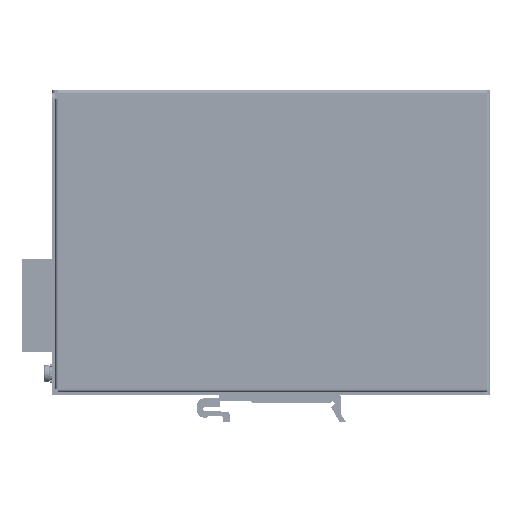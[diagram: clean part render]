
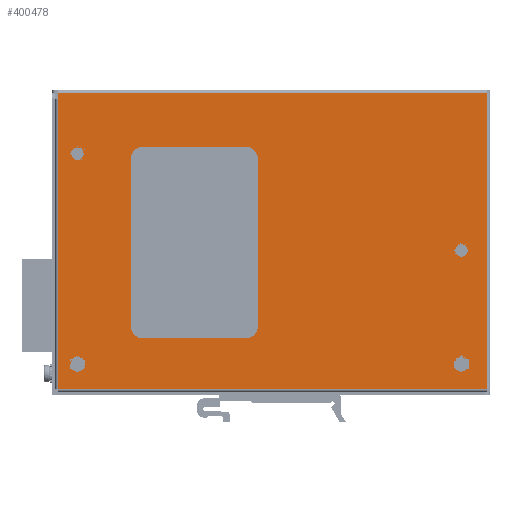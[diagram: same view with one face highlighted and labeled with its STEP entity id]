
A CAD part, front view. The second image highlights one B-rep face of the part: STEP entity #400478.
In plain terms, the highlighted planar face has unit normal (0, -1, 0).
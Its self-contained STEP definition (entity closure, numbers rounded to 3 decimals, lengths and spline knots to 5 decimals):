
#11233=CIRCLE('',#428897,0.004);
#11234=CIRCLE('',#428900,0.004);
#11235=CIRCLE('',#428903,0.004);
#11236=CIRCLE('',#428906,0.004);
#11287=CIRCLE('',#429021,0.002);
#11289=CIRCLE('',#429024,0.002);
#11291=CIRCLE('',#429027,0.002);
#11293=CIRCLE('',#429030,0.002);
#85942=ORIENTED_EDGE('',*,*,#167500,.F.);
#85943=ORIENTED_EDGE('',*,*,#167498,.F.);
#85944=ORIENTED_EDGE('',*,*,#167496,.F.);
#85945=ORIENTED_EDGE('',*,*,#167494,.F.);
#85946=ORIENTED_EDGE('',*,*,#167492,.F.);
#85947=ORIENTED_EDGE('',*,*,#167490,.F.);
#85948=ORIENTED_EDGE('',*,*,#167488,.F.);
#85949=ORIENTED_EDGE('',*,*,#167501,.F.);
#85950=ORIENTED_EDGE('',*,*,#167673,.F.);
#85951=ORIENTED_EDGE('',*,*,#167671,.F.);
#85952=ORIENTED_EDGE('',*,*,#167669,.F.);
#85953=ORIENTED_EDGE('',*,*,#167667,.F.);
#85954=ORIENTED_EDGE('',*,*,#168155,.T.);
#85955=ORIENTED_EDGE('',*,*,#168141,.T.);
#85956=ORIENTED_EDGE('',*,*,#168114,.T.);
#85957=ORIENTED_EDGE('',*,*,#168095,.T.);
#85958=ORIENTED_EDGE('',*,*,#168158,.T.);
#167488=EDGE_CURVE('',#213967,#213966,#11233,.T.);
#167490=EDGE_CURVE('',#213966,#213968,#258349,.T.);
#167492=EDGE_CURVE('',#213968,#213969,#11234,.T.);
#167494=EDGE_CURVE('',#213969,#213970,#258352,.T.);
#167496=EDGE_CURVE('',#213970,#213971,#11235,.T.);
#167498=EDGE_CURVE('',#213971,#213972,#258355,.T.);
#167500=EDGE_CURVE('',#213972,#213973,#11236,.T.);
#167501=EDGE_CURVE('',#213973,#213967,#258357,.T.);
#167667=EDGE_CURVE('',#214094,#214094,#11287,.T.);
#167669=EDGE_CURVE('',#214096,#214096,#11289,.T.);
#167671=EDGE_CURVE('',#214098,#214098,#11291,.T.);
#167673=EDGE_CURVE('',#214100,#214100,#11293,.T.);
#168095=EDGE_CURVE('',#214488,#214487,#258555,.T.);
#168114=EDGE_CURVE('',#214497,#214488,#258569,.T.);
#168141=EDGE_CURVE('',#214510,#214497,#258588,.T.);
#168155=EDGE_CURVE('',#214516,#214510,#258599,.T.);
#168158=EDGE_CURVE('',#214487,#214516,#258601,.T.);
#213966=VERTEX_POINT('',#626858);
#213967=VERTEX_POINT('',#626860);
#213968=VERTEX_POINT('',#626864);
#213969=VERTEX_POINT('',#626868);
#213970=VERTEX_POINT('',#626872);
#213971=VERTEX_POINT('',#626876);
#213972=VERTEX_POINT('',#626880);
#213973=VERTEX_POINT('',#626884);
#214094=VERTEX_POINT('',#627237);
#214096=VERTEX_POINT('',#627242);
#214098=VERTEX_POINT('',#627247);
#214100=VERTEX_POINT('',#627252);
#214487=VERTEX_POINT('',#628256);
#214488=VERTEX_POINT('',#628258);
#214497=VERTEX_POINT('',#628296);
#214510=VERTEX_POINT('',#628350);
#214516=VERTEX_POINT('',#628378);
#258349=LINE('',#626865,#306201);
#258352=LINE('',#626873,#306204);
#258355=LINE('',#626881,#306207);
#258357=LINE('',#626887,#306209);
#258555=LINE('',#628257,#306407);
#258569=LINE('',#628295,#306421);
#258588=LINE('',#628349,#306440);
#258599=LINE('',#628377,#306451);
#258601=LINE('',#628383,#306453);
#306201=VECTOR('',#504770,1.);
#306204=VECTOR('',#504779,1.);
#306207=VECTOR('',#504788,1.);
#306209=VECTOR('',#504796,1.);
#306407=VECTOR('',#506310,1.);
#306421=VECTOR('',#506354,1.);
#306440=VECTOR('',#506417,1.);
#306451=VECTOR('',#506450,1.);
#306453=VECTOR('',#506458,1.);
#339076=EDGE_LOOP('',(#85942,#85943,#85944,#85945,#85946,#85947,#85948,
#85949));
#339077=EDGE_LOOP('',(#85950));
#339078=EDGE_LOOP('',(#85951));
#339079=EDGE_LOOP('',(#85952));
#339080=EDGE_LOOP('',(#85953));
#339081=EDGE_LOOP('',(#85954,#85955,#85956,#85957,#85958));
#362238=FACE_BOUND('',#339076,.T.);
#362239=FACE_BOUND('',#339077,.T.);
#362240=FACE_BOUND('',#339078,.T.);
#362241=FACE_BOUND('',#339079,.T.);
#362242=FACE_BOUND('',#339080,.T.);
#362243=FACE_BOUND('',#339081,.T.);
#381594=PLANE('',#429617);
#400478=ADVANCED_FACE('',(#362238,#362239,#362240,#362241,#362242,#362243),
#381594,.F.);
#428897=AXIS2_PLACEMENT_3D('',#626861,#504765,#504766);
#428900=AXIS2_PLACEMENT_3D('',#626869,#504774,#504775);
#428903=AXIS2_PLACEMENT_3D('',#626877,#504783,#504784);
#428906=AXIS2_PLACEMENT_3D('',#626885,#504792,#504793);
#429021=AXIS2_PLACEMENT_3D('',#627236,#505138,#505139);
#429024=AXIS2_PLACEMENT_3D('',#627241,#505144,#505145);
#429027=AXIS2_PLACEMENT_3D('',#627246,#505150,#505151);
#429030=AXIS2_PLACEMENT_3D('',#627251,#505156,#505157);
#429617=AXIS2_PLACEMENT_3D('',#628384,#506459,#506460);
#504765=DIRECTION('',(0.,-1.,0.));
#504766=DIRECTION('',(0.,0.,1.));
#504770=DIRECTION('',(0.,0.,-1.));
#504774=DIRECTION('',(0.,-1.,0.));
#504775=DIRECTION('',(-1.,0.,0.));
#504779=DIRECTION('',(1.,0.,0.));
#504783=DIRECTION('',(0.,-1.,0.));
#504784=DIRECTION('',(0.,0.,-1.));
#504788=DIRECTION('',(0.,0.,1.));
#504792=DIRECTION('',(0.,-1.,0.));
#504793=DIRECTION('',(1.,0.,0.));
#504796=DIRECTION('',(-1.,0.,0.));
#505138=DIRECTION('',(0.,-1.,0.));
#505139=DIRECTION('',(0.,0.,1.));
#505144=DIRECTION('',(0.,-1.,0.));
#505145=DIRECTION('',(0.,0.,1.));
#505150=DIRECTION('',(0.,-1.,0.));
#505151=DIRECTION('',(0.,0.,1.));
#505156=DIRECTION('',(0.,-1.,0.));
#505157=DIRECTION('',(0.,0.,1.));
#506310=DIRECTION('',(-1.,0.,0.));
#506354=DIRECTION('',(0.,0.,1.));
#506417=DIRECTION('',(1.,0.,0.));
#506450=DIRECTION('',(0.,0.,-1.));
#506458=DIRECTION('',(0.,0.,-1.));
#506459=DIRECTION('',(0.,1.,0.));
#506460=DIRECTION('',(1.,0.,0.));
#626858=CARTESIAN_POINT('',(-0.046,0.,0.0265));
#626860=CARTESIAN_POINT('',(-0.042,0.,0.0305));
#626861=CARTESIAN_POINT('',(-0.042,0.,0.0265));
#626864=CARTESIAN_POINT('',(-0.046,0.,-0.0277));
#626865=CARTESIAN_POINT('',(-0.046,0.,0.0265));
#626868=CARTESIAN_POINT('',(-0.042,0.,-0.0317));
#626869=CARTESIAN_POINT('',(-0.042,0.,-0.0277));
#626872=CARTESIAN_POINT('',(-0.0088,0.,-0.0317));
#626873=CARTESIAN_POINT('',(-0.042,0.,-0.0317));
#626876=CARTESIAN_POINT('',(-0.0048,0.,-0.0277));
#626877=CARTESIAN_POINT('',(-0.0088,0.,-0.0277));
#626880=CARTESIAN_POINT('',(-0.0048,0.,0.0265));
#626881=CARTESIAN_POINT('',(-0.0048,0.,-0.0277));
#626884=CARTESIAN_POINT('',(-0.0088,0.,0.0305));
#626885=CARTESIAN_POINT('',(-0.0088,0.,0.0265));
#626887=CARTESIAN_POINT('',(-0.0088,0.,0.0305));
#627236=CARTESIAN_POINT('',(0.06127,0.,-0.03998));
#627237=CARTESIAN_POINT('',(0.06127,0.,-0.03798));
#627241=CARTESIAN_POINT('',(0.06127,0.,-0.00315));
#627242=CARTESIAN_POINT('',(0.06127,0.,-0.00115));
#627246=CARTESIAN_POINT('',(-0.06332,0.,-0.03998));
#627247=CARTESIAN_POINT('',(-0.06332,0.,-0.03798));
#627251=CARTESIAN_POINT('',(-0.06332,0.,0.02822));
#627252=CARTESIAN_POINT('',(-0.06332,0.,0.03022));
#628256=CARTESIAN_POINT('',(-0.0695,0.,0.0479));
#628257=CARTESIAN_POINT('',(0.0695,0.,0.0479));
#628258=CARTESIAN_POINT('',(0.0695,0.,0.0479));
#628295=CARTESIAN_POINT('',(0.0695,0.,-0.0481));
#628296=CARTESIAN_POINT('',(0.0695,0.,-0.0481));
#628349=CARTESIAN_POINT('',(-0.0695,0.,-0.0481));
#628350=CARTESIAN_POINT('',(-0.0695,0.,-0.0481));
#628377=CARTESIAN_POINT('',(-0.0695,0.,0.0461));
#628378=CARTESIAN_POINT('',(-0.0695,0.,0.0461));
#628383=CARTESIAN_POINT('',(-0.0695,0.,0.0479));
#628384=CARTESIAN_POINT('',(0.,0.,-0.0001));
